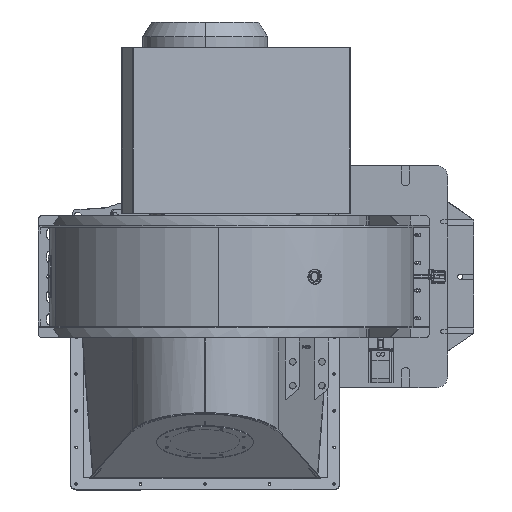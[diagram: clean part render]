
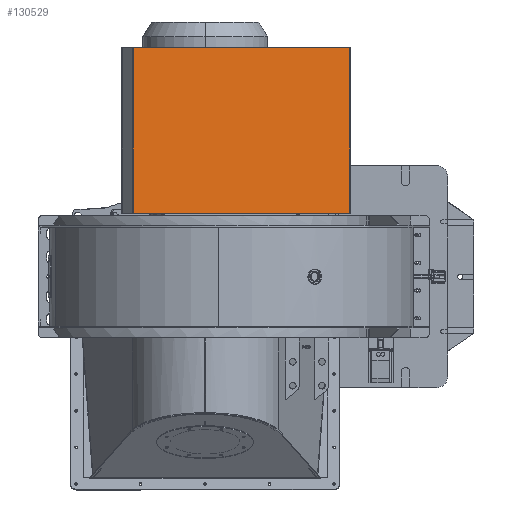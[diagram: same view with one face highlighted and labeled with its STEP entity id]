
A CAD part, left-side view. The second image highlights one B-rep face of the part: STEP entity #130529.
In plain terms, the highlighted planar face has unit normal (-0.981, -0.196, 0).
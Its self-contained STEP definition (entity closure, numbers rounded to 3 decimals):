
#208 = VECTOR ( 'NONE', #106472, 1000. ) ;
#10087 = PLANE ( 'NONE',  #111964 ) ;
#16709 = LINE ( 'NONE', #83195, #42090 ) ;
#18734 = ORIENTED_EDGE ( 'NONE', *, *, #197564, .F. ) ;
#26386 = CARTESIAN_POINT ( 'NONE',  ( -1475.214, 780.025, 827. ) ) ;
#29009 = EDGE_CURVE ( 'NONE', #181920, #137085, #166323, .T. ) ;
#30501 = LINE ( 'NONE', #184514, #208 ) ;
#35800 = ORIENTED_EDGE ( 'NONE', *, *, #29009, .F. ) ;
#35827 = FACE_OUTER_BOUND ( 'NONE', #97513, .T. ) ;
#42090 = VECTOR ( 'NONE', #134338, 1000. ) ;
#50387 = CARTESIAN_POINT ( 'NONE',  ( -1475.214, 780.025, 227. ) ) ;
#67650 = CARTESIAN_POINT ( 'NONE',  ( -1318.458, -4.467, 827. ) ) ;
#83195 = CARTESIAN_POINT ( 'NONE',  ( -1475.214, 780.025, 827. ) ) ;
#85767 = ORIENTED_EDGE ( 'NONE', *, *, #181453, .F. ) ;
#88163 = CARTESIAN_POINT ( 'NONE',  ( -1475.214, 780.025, 227. ) ) ;
#94129 = VECTOR ( 'NONE', #132607, 1000. ) ;
#95406 = VERTEX_POINT ( 'NONE', #185910 ) ;
#97513 = EDGE_LOOP ( 'NONE', ( #148169, #85767, #35800, #18734 ) ) ;
#101282 = CARTESIAN_POINT ( 'NONE',  ( -1475.214, 780.025, 827. ) ) ;
#106472 = DIRECTION ( 'NONE',  ( 0., 0., -1. ) ) ;
#108488 = DIRECTION ( 'NONE',  ( -0.981, -0.196, 0. ) ) ;
#111964 = AXIS2_PLACEMENT_3D ( 'NONE', #26386, #108488, #175077 ) ;
#114556 = DIRECTION ( 'NONE',  ( 0.196, -0.981, 0. ) ) ;
#122906 = VERTEX_POINT ( 'NONE', #88163 ) ;
#130529 = ADVANCED_FACE ( 'NONE', ( #35827 ), #10087, .T. ) ;
#132607 = DIRECTION ( 'NONE',  ( -0.196, 0.981, 0. ) ) ;
#134338 = DIRECTION ( 'NONE',  ( 0., 0., 1. ) ) ;
#137085 = VERTEX_POINT ( 'NONE', #162182 ) ;
#148169 = ORIENTED_EDGE ( 'NONE', *, *, #173161, .F. ) ;
#151154 = VECTOR ( 'NONE', #114556, 1000. ) ;
#162182 = CARTESIAN_POINT ( 'NONE',  ( -1318.458, -4.467, 827. ) ) ;
#166323 = LINE ( 'NONE', #67650, #151154 ) ;
#173161 = EDGE_CURVE ( 'NONE', #95406, #122906, #180487, .T. ) ;
#175077 = DIRECTION ( 'NONE',  ( -0.196, 0.981, 0. ) ) ;
#180487 = LINE ( 'NONE', #50387, #94129 ) ;
#181453 = EDGE_CURVE ( 'NONE', #137085, #95406, #30501, .T. ) ;
#181920 = VERTEX_POINT ( 'NONE', #101282 ) ;
#184514 = CARTESIAN_POINT ( 'NONE',  ( -1318.458, -4.467, 227. ) ) ;
#185910 = CARTESIAN_POINT ( 'NONE',  ( -1318.458, -4.467, 227. ) ) ;
#197564 = EDGE_CURVE ( 'NONE', #122906, #181920, #16709, .T. ) ;
